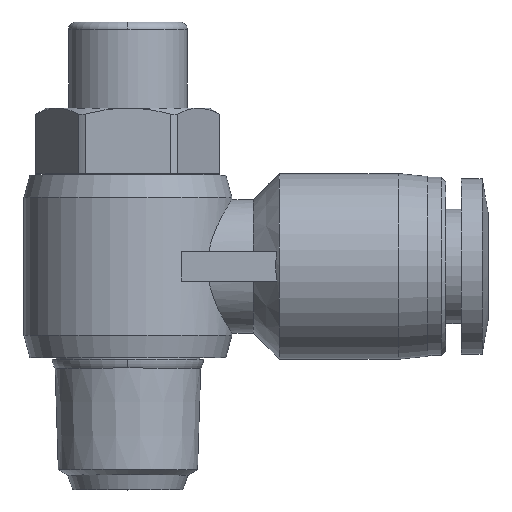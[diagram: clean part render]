
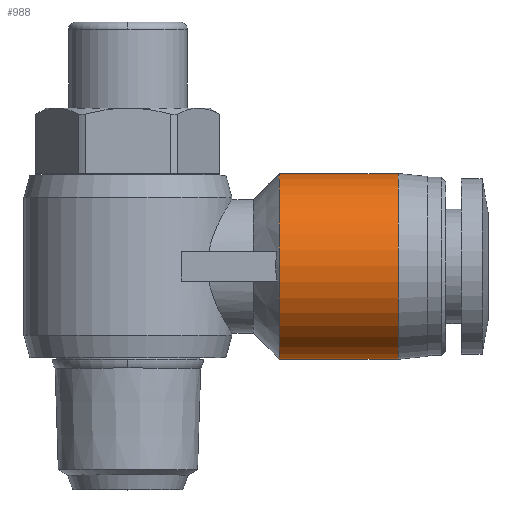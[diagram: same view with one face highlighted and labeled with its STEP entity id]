
A CAD part, top view. The second image highlights one B-rep face of the part: STEP entity #988.
In plain terms, the highlighted cylindrical face has radius 6.25 mm (diameter 12.5 mm), a partial arc.
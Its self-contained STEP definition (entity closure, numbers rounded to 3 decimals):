
#8 = DIRECTION ( 'NONE',  ( -1., 0., 0. ) ) ;
#22 = VERTEX_POINT ( 'NONE', #1983 ) ;
#31 = CARTESIAN_POINT ( 'NONE',  ( 14.2, 15.05, 0. ) ) ;
#124 = VECTOR ( 'NONE', #2764, 1000. ) ;
#157 = EDGE_CURVE ( 'NONE', #213, #1105, #1211, .T. ) ;
#213 = VERTEX_POINT ( 'NONE', #3593 ) ;
#239 = CARTESIAN_POINT ( 'NONE',  ( 18.2, 15.05, 0. ) ) ;
#370 = CARTESIAN_POINT ( 'NONE',  ( 14.2, 8.8, 0. ) ) ;
#477 = VERTEX_POINT ( 'NONE', #760 ) ;
#648 = DIRECTION ( 'NONE',  ( 0., -1., 0. ) ) ;
#760 = CARTESIAN_POINT ( 'NONE',  ( 10.2, 8.8, 0. ) ) ;
#933 = ORIENTED_EDGE ( 'NONE', *, *, #1346, .F. ) ;
#988 = ADVANCED_FACE ( 'NONE', ( #2710 ), #1803, .T. ) ;
#1105 = VERTEX_POINT ( 'NONE', #2950 ) ;
#1175 = EDGE_CURVE ( 'NONE', #22, #213, #2315, .T. ) ;
#1211 = LINE ( 'NONE', #2722, #1813 ) ;
#1346 = EDGE_CURVE ( 'NONE', #22, #477, #3069, .T. ) ;
#1435 = DIRECTION ( 'NONE',  ( 0., -1., 0. ) ) ;
#1501 = AXIS2_PLACEMENT_3D ( 'NONE', #239, #2631, #1435 ) ;
#1556 = ORIENTED_EDGE ( 'NONE', *, *, #1711, .F. ) ;
#1656 = DIRECTION ( 'NONE',  ( -1., 0., 0. ) ) ;
#1678 = DIRECTION ( 'NONE',  ( 0., -1., 0. ) ) ;
#1711 = EDGE_CURVE ( 'NONE', #477, #1105, #3695, .T. ) ;
#1803 = CYLINDRICAL_SURFACE ( 'NONE', #2556, 6.25 ) ;
#1813 = VECTOR ( 'NONE', #8, 1000. ) ;
#1983 = CARTESIAN_POINT ( 'NONE',  ( 18.2, 8.8, 0. ) ) ;
#2058 = CARTESIAN_POINT ( 'NONE',  ( 10.2, 15.05, 0. ) ) ;
#2315 = CIRCLE ( 'NONE', #1501, 6.25 ) ;
#2343 = EDGE_LOOP ( 'NONE', ( #3778, #2650, #1556, #933 ) ) ;
#2556 = AXIS2_PLACEMENT_3D ( 'NONE', #31, #3325, #648 ) ;
#2631 = DIRECTION ( 'NONE',  ( -1., 0., 0. ) ) ;
#2650 = ORIENTED_EDGE ( 'NONE', *, *, #157, .T. ) ;
#2710 = FACE_OUTER_BOUND ( 'NONE', #2343, .T. ) ;
#2722 = CARTESIAN_POINT ( 'NONE',  ( 14.2, 21.3, 0. ) ) ;
#2764 = DIRECTION ( 'NONE',  ( -1., 0., 0. ) ) ;
#2950 = CARTESIAN_POINT ( 'NONE',  ( 10.2, 21.3, 0. ) ) ;
#3069 = LINE ( 'NONE', #370, #124 ) ;
#3325 = DIRECTION ( 'NONE',  ( -1., 0., 0. ) ) ;
#3455 = AXIS2_PLACEMENT_3D ( 'NONE', #2058, #1656, #1678 ) ;
#3593 = CARTESIAN_POINT ( 'NONE',  ( 18.2, 21.3, 0. ) ) ;
#3695 = CIRCLE ( 'NONE', #3455, 6.25 ) ;
#3778 = ORIENTED_EDGE ( 'NONE', *, *, #1175, .T. ) ;
